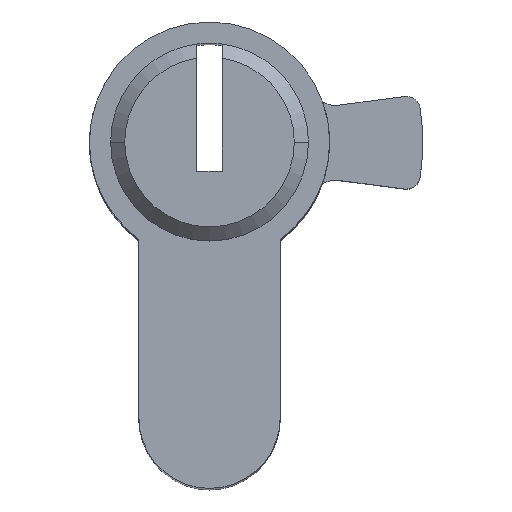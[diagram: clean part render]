
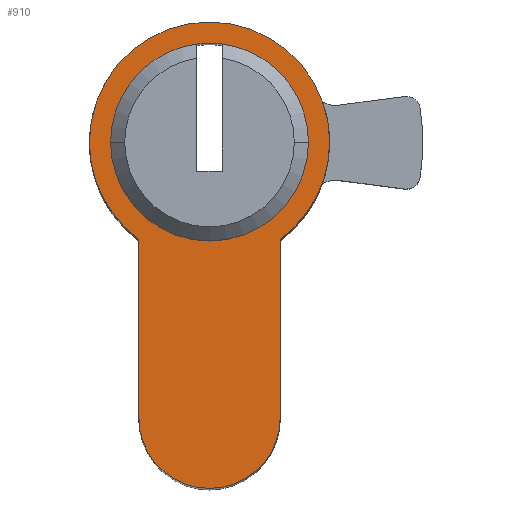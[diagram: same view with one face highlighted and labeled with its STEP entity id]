
A CAD part, top view. The second image highlights one B-rep face of the part: STEP entity #910.
In plain terms, the highlighted planar face has unit normal (0, 0, 1).
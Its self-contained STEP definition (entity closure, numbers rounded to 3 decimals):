
#23 = CIRCLE ( 'NONE', #1429, 8.5 ) ;
#56 = FACE_BOUND ( 'NONE', #875, .T. ) ;
#119 = DIRECTION ( 'NONE',  ( 0., 0., 1. ) ) ;
#130 = DIRECTION ( 'NONE',  ( 0., 1., 0. ) ) ;
#142 = ORIENTED_EDGE ( 'NONE', *, *, #746, .T. ) ;
#185 = CARTESIAN_POINT ( 'NONE',  ( 0., 0., 30. ) ) ;
#187 = DIRECTION ( 'NONE',  ( 1., 0., 0. ) ) ;
#199 = CARTESIAN_POINT ( 'NONE',  ( -5., -19.5, 30. ) ) ;
#217 = ORIENTED_EDGE ( 'NONE', *, *, #1251, .F. ) ;
#232 = VERTEX_POINT ( 'NONE', #1748 ) ;
#246 = VERTEX_POINT ( 'NONE', #1362 ) ;
#265 = EDGE_LOOP ( 'NONE', ( #961, #142, #823, #812, #542, #1652 ) ) ;
#272 = VERTEX_POINT ( 'NONE', #1325 ) ;
#273 = DIRECTION ( 'NONE',  ( 1., 0., 0. ) ) ;
#296 = CARTESIAN_POINT ( 'NONE',  ( -5., -6.874, 30. ) ) ;
#316 = DIRECTION ( 'NONE',  ( 0., 0., 1. ) ) ;
#318 = DIRECTION ( 'NONE',  ( 0., 0., 1. ) ) ;
#322 = EDGE_CURVE ( 'NONE', #246, #509, #539, .T. ) ;
#330 = CIRCLE ( 'NONE', #556, 5. ) ;
#333 = CIRCLE ( 'NONE', #504, 7. ) ;
#334 = DIRECTION ( 'NONE',  ( 1., 0., 0. ) ) ;
#338 = DIRECTION ( 'NONE',  ( 1., 0., 0. ) ) ;
#349 = CARTESIAN_POINT ( 'NONE',  ( 5., -19.5, 30. ) ) ;
#409 = CARTESIAN_POINT ( 'NONE',  ( 0., 0., 30. ) ) ;
#429 = EDGE_CURVE ( 'NONE', #509, #1300, #330, .T. ) ;
#440 = DIRECTION ( 'NONE',  ( 0., -1., 0. ) ) ;
#466 = ORIENTED_EDGE ( 'NONE', *, *, #1644, .F. ) ;
#471 = AXIS2_PLACEMENT_3D ( 'NONE', #867, #1265, #833 ) ;
#504 = AXIS2_PLACEMENT_3D ( 'NONE', #738, #1682, #962 ) ;
#509 = VERTEX_POINT ( 'NONE', #199 ) ;
#539 = LINE ( 'NONE', #296, #1167 ) ;
#542 = ORIENTED_EDGE ( 'NONE', *, *, #429, .T. ) ;
#556 = AXIS2_PLACEMENT_3D ( 'NONE', #742, #1379, #187 ) ;
#564 = VERTEX_POINT ( 'NONE', #1722 ) ;
#652 = EDGE_CURVE ( 'NONE', #989, #1071, #1366, .T. ) ;
#666 = AXIS2_PLACEMENT_3D ( 'NONE', #1680, #318, #338 ) ;
#690 = DIRECTION ( 'NONE',  ( 1., 0., 0. ) ) ;
#698 = AXIS2_PLACEMENT_3D ( 'NONE', #1622, #1478, #273 ) ;
#733 = ORIENTED_EDGE ( 'NONE', *, *, #1188, .F. ) ;
#738 = CARTESIAN_POINT ( 'NONE',  ( 0., 0., 30. ) ) ;
#742 = CARTESIAN_POINT ( 'NONE',  ( 0., -19.5, 30. ) ) ;
#746 = EDGE_CURVE ( 'NONE', #1662, #564, #23, .T. ) ;
#758 = DIRECTION ( 'NONE',  ( 1., 0., 0. ) ) ;
#772 = CARTESIAN_POINT ( 'NONE',  ( 0., 0., 30. ) ) ;
#800 = ORIENTED_EDGE ( 'NONE', *, *, #652, .F. ) ;
#812 = ORIENTED_EDGE ( 'NONE', *, *, #322, .T. ) ;
#823 = ORIENTED_EDGE ( 'NONE', *, *, #1037, .T. ) ;
#833 = DIRECTION ( 'NONE',  ( 1., 0., 0. ) ) ;
#838 = AXIS2_PLACEMENT_3D ( 'NONE', #772, #119, #1180 ) ;
#846 = VERTEX_POINT ( 'NONE', #1234 ) ;
#867 = CARTESIAN_POINT ( 'NONE',  ( 0., 0., 30. ) ) ;
#875 = EDGE_LOOP ( 'NONE', ( #800, #466, #217, #733 ) ) ;
#894 = CARTESIAN_POINT ( 'NONE',  ( -0.9, 6.942, 30. ) ) ;
#902 = DIRECTION ( 'NONE',  ( 0., 0., 1. ) ) ;
#910 = ADVANCED_FACE ( 'NONE', ( #56, #1377 ), #1370, .T. ) ;
#915 = LINE ( 'NONE', #1032, #1276 ) ;
#961 = ORIENTED_EDGE ( 'NONE', *, *, #1267, .T. ) ;
#962 = DIRECTION ( 'NONE',  ( 1., 0., 0. ) ) ;
#978 = CARTESIAN_POINT ( 'NONE',  ( 8.5, 0., 30. ) ) ;
#989 = VERTEX_POINT ( 'NONE', #1275 ) ;
#1025 = CARTESIAN_POINT ( 'NONE',  ( 0., 0., 30. ) ) ;
#1032 = CARTESIAN_POINT ( 'NONE',  ( 5., -19.5, 30. ) ) ;
#1037 = EDGE_CURVE ( 'NONE', #564, #246, #1283, .T. ) ;
#1052 = DIRECTION ( 'NONE',  ( 0., 0., 1. ) ) ;
#1071 = VERTEX_POINT ( 'NONE', #894 ) ;
#1144 = AXIS2_PLACEMENT_3D ( 'NONE', #1025, #902, #758 ) ;
#1167 = VECTOR ( 'NONE', #440, 1000. ) ;
#1180 = DIRECTION ( 'NONE',  ( 1., 0., 0. ) ) ;
#1188 = EDGE_CURVE ( 'NONE', #1071, #846, #1714, .T. ) ;
#1219 = CIRCLE ( 'NONE', #471, 8.5 ) ;
#1234 = CARTESIAN_POINT ( 'NONE',  ( -7., 0., 30. ) ) ;
#1251 = EDGE_CURVE ( 'NONE', #846, #232, #333, .T. ) ;
#1265 = DIRECTION ( 'NONE',  ( 0., 0., 1. ) ) ;
#1267 = EDGE_CURVE ( 'NONE', #272, #1662, #1219, .T. ) ;
#1275 = CARTESIAN_POINT ( 'NONE',  ( 0.9, 6.942, 30. ) ) ;
#1276 = VECTOR ( 'NONE', #130, 1000. ) ;
#1283 = CIRCLE ( 'NONE', #1144, 8.5 ) ;
#1300 = VERTEX_POINT ( 'NONE', #349 ) ;
#1325 = CARTESIAN_POINT ( 'NONE',  ( 5., -6.874, 30. ) ) ;
#1362 = CARTESIAN_POINT ( 'NONE',  ( -5., -6.874, 30. ) ) ;
#1366 = CIRCLE ( 'NONE', #838, 7. ) ;
#1370 = PLANE ( 'NONE',  #1519 ) ;
#1377 = FACE_OUTER_BOUND ( 'NONE', #265, .T. ) ;
#1379 = DIRECTION ( 'NONE',  ( 0., 0., 1. ) ) ;
#1384 = EDGE_CURVE ( 'NONE', #1300, #272, #915, .T. ) ;
#1429 = AXIS2_PLACEMENT_3D ( 'NONE', #409, #1052, #690 ) ;
#1454 = CIRCLE ( 'NONE', #666, 7. ) ;
#1478 = DIRECTION ( 'NONE',  ( 0., 0., 1. ) ) ;
#1519 = AXIS2_PLACEMENT_3D ( 'NONE', #185, #316, #334 ) ;
#1622 = CARTESIAN_POINT ( 'NONE',  ( 0., 0., 30. ) ) ;
#1644 = EDGE_CURVE ( 'NONE', #232, #989, #1454, .T. ) ;
#1652 = ORIENTED_EDGE ( 'NONE', *, *, #1384, .T. ) ;
#1662 = VERTEX_POINT ( 'NONE', #978 ) ;
#1680 = CARTESIAN_POINT ( 'NONE',  ( 0., 0., 30. ) ) ;
#1682 = DIRECTION ( 'NONE',  ( 0., 0., 1. ) ) ;
#1714 = CIRCLE ( 'NONE', #698, 7. ) ;
#1722 = CARTESIAN_POINT ( 'NONE',  ( -8.5, 0., 30. ) ) ;
#1748 = CARTESIAN_POINT ( 'NONE',  ( 7., 0., 30. ) ) ;
